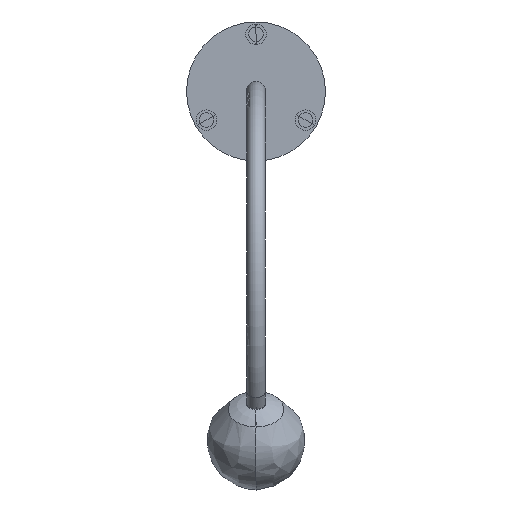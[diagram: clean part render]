
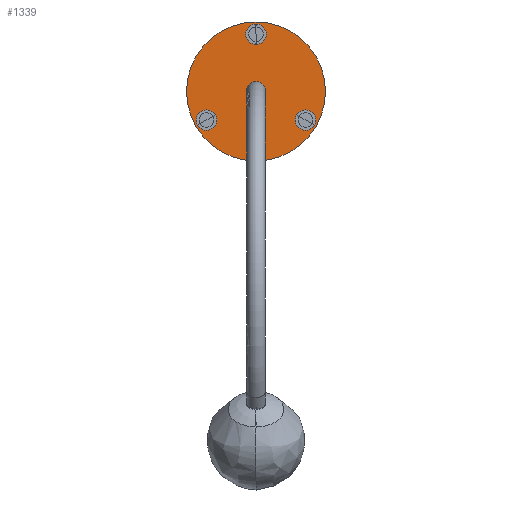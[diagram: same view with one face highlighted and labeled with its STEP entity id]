
A CAD part, top view. The second image highlights one B-rep face of the part: STEP entity #1339.
In plain terms, the highlighted planar face has unit normal (0, 0, 1).
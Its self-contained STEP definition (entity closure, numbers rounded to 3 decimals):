
#34=FACE_BOUND('',#331,.T.);
#35=FACE_BOUND('',#332,.T.);
#36=FACE_BOUND('',#333,.T.);
#105=CIRCLE('',#1464,6.234);
#106=CIRCLE('',#1466,6.234);
#111=CIRCLE('',#1474,6.234);
#112=CIRCLE('',#1476,6.234);
#117=CIRCLE('',#1484,6.234);
#118=CIRCLE('',#1486,6.234);
#119=CIRCLE('',#1488,42.5);
#121=CIRCLE('',#1491,42.5);
#233=FACE_OUTER_BOUND('',#330,.T.);
#330=EDGE_LOOP('',(#1150,#1151));
#331=EDGE_LOOP('',(#1152,#1153));
#332=EDGE_LOOP('',(#1154,#1155));
#333=EDGE_LOOP('',(#1156,#1157));
#642=VERTEX_POINT('',#2200);
#643=VERTEX_POINT('',#2202);
#648=VERTEX_POINT('',#2220);
#649=VERTEX_POINT('',#2222);
#654=VERTEX_POINT('',#2240);
#655=VERTEX_POINT('',#2242);
#656=VERTEX_POINT('',#2248);
#657=VERTEX_POINT('',#2249);
#798=EDGE_CURVE('',#643,#642,#105,.T.);
#800=EDGE_CURVE('',#642,#643,#106,.T.);
#808=EDGE_CURVE('',#649,#648,#111,.T.);
#810=EDGE_CURVE('',#648,#649,#112,.T.);
#818=EDGE_CURVE('',#655,#654,#117,.T.);
#820=EDGE_CURVE('',#654,#655,#118,.T.);
#821=EDGE_CURVE('',#656,#657,#119,.T.);
#825=EDGE_CURVE('',#657,#656,#121,.T.);
#1150=ORIENTED_EDGE('',*,*,#825,.T.);
#1151=ORIENTED_EDGE('',*,*,#821,.T.);
#1152=ORIENTED_EDGE('',*,*,#820,.T.);
#1153=ORIENTED_EDGE('',*,*,#818,.T.);
#1154=ORIENTED_EDGE('',*,*,#810,.T.);
#1155=ORIENTED_EDGE('',*,*,#808,.T.);
#1156=ORIENTED_EDGE('',*,*,#800,.T.);
#1157=ORIENTED_EDGE('',*,*,#798,.T.);
#1255=PLANE('',#1494);
#1339=ADVANCED_FACE('',(#233,#34,#35,#36),#1255,.T.);
#1464=AXIS2_PLACEMENT_3D('',#2203,#1806,#1807);
#1466=AXIS2_PLACEMENT_3D('',#2206,#1811,#1812);
#1474=AXIS2_PLACEMENT_3D('',#2223,#1830,#1831);
#1476=AXIS2_PLACEMENT_3D('',#2226,#1835,#1836);
#1484=AXIS2_PLACEMENT_3D('',#2243,#1854,#1855);
#1486=AXIS2_PLACEMENT_3D('',#2246,#1859,#1860);
#1488=AXIS2_PLACEMENT_3D('',#2250,#1863,#1864);
#1491=AXIS2_PLACEMENT_3D('',#2257,#1871,#1872);
#1494=AXIS2_PLACEMENT_3D('',#2260,#1877,#1878);
#1806=DIRECTION('center_axis',(0.,0.,-1.));
#1807=DIRECTION('ref_axis',(0.995,-0.105,0.));
#1811=DIRECTION('center_axis',(0.,0.,-1.));
#1812=DIRECTION('ref_axis',(0.995,-0.105,0.));
#1830=DIRECTION('center_axis',(0.,0.,-1.));
#1831=DIRECTION('ref_axis',(-0.407,0.914,0.));
#1835=DIRECTION('center_axis',(0.,0.,-1.));
#1836=DIRECTION('ref_axis',(-0.407,0.914,0.));
#1854=DIRECTION('center_axis',(0.,0.,-1.));
#1855=DIRECTION('ref_axis',(-0.588,-0.809,0.));
#1859=DIRECTION('center_axis',(0.,0.,-1.));
#1860=DIRECTION('ref_axis',(-0.588,-0.809,0.));
#1863=DIRECTION('center_axis',(0.,0.,1.));
#1864=DIRECTION('ref_axis',(1.,0.,0.));
#1871=DIRECTION('center_axis',(0.,0.,1.));
#1872=DIRECTION('ref_axis',(1.,0.,0.));
#1877=DIRECTION('center_axis',(0.,0.,1.));
#1878=DIRECTION('ref_axis',(0.,1.,0.));
#2200=CARTESIAN_POINT('',(-24.907,-1014.38,4.));
#2202=CARTESIAN_POINT('',(-35.705,-1020.614,4.));
#2203=CARTESIAN_POINT('Origin',(-30.306,-1017.497,4.));
#2206=CARTESIAN_POINT('Origin',(-30.306,-1017.497,4.));
#2220=CARTESIAN_POINT('',(24.907,-1014.38,4.));
#2222=CARTESIAN_POINT('',(35.705,-1020.614,4.));
#2223=CARTESIAN_POINT('Origin',(30.306,-1017.497,4.));
#2226=CARTESIAN_POINT('Origin',(30.306,-1017.497,4.));
#2240=CARTESIAN_POINT('',(0.,-971.24,4.));
#2242=CARTESIAN_POINT('',(0.,-958.771,4.));
#2243=CARTESIAN_POINT('Origin',(0.,-965.006,
4.));
#2246=CARTESIAN_POINT('Origin',(0.,-965.006,
4.));
#2248=CARTESIAN_POINT('',(42.5,-1000.,4.));
#2249=CARTESIAN_POINT('',(-42.5,-1000.,4.));
#2250=CARTESIAN_POINT('Origin',(0.,-1000.,4.));
#2257=CARTESIAN_POINT('Origin',(0.,-1000.,4.));
#2260=CARTESIAN_POINT('Origin',(42.5,-1000.,4.));
